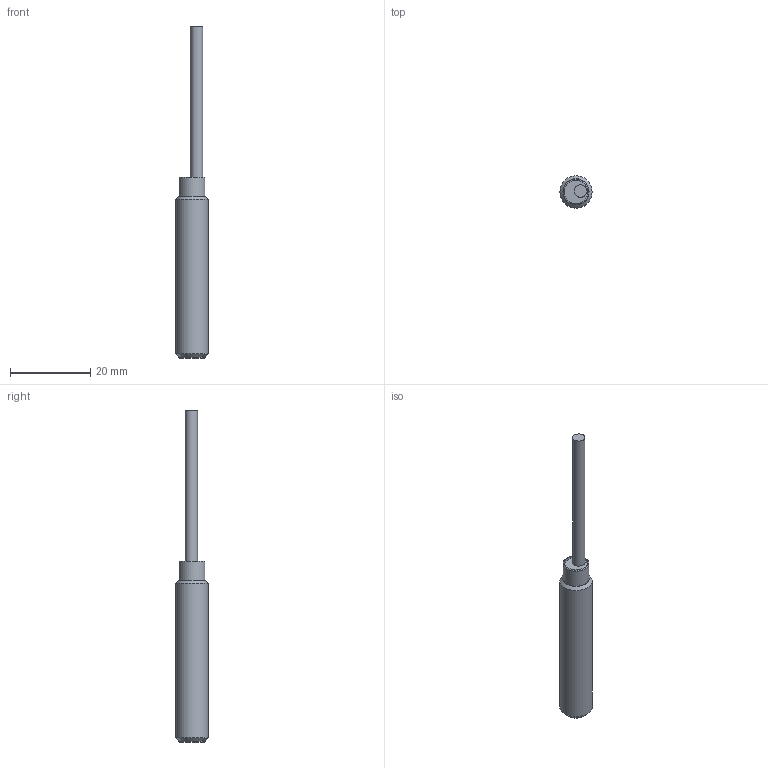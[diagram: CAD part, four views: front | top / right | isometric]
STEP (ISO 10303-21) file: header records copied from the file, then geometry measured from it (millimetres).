
FILE_DESCRIPTION( ( 'Unknown' ), '1' );
FILE_SCHEMA( ( 'AUTOMOTIVE_DESIGN { 1 0 10303 214 1 1 1 1 }' ) );
Length unit declared in the file: millimetre
Products named in the file (5): Assem1
Assembly tree (4 placements, depth 2):
  Assem1
    (unnamed)
    (unnamed)
    (unnamed)
    (unnamed)
Bounding box: 8 x 8 x 82.6 mm (x, y, z)
Volume: 2433.3 mm3; surface area: 1744.5 mm2
Topology: 4 solids, 4 shells, 20 faces, 28 edges, 18 vertices
Faces by surface type: plane 10, cylinder 6, torus 2, cone 2
Full cylindrical faces by diameter (mm): 3.1 x2, 5.8 x1, 6.45 x1, 6.5 x1, 8 x1
Entity records: 449 total; most frequent: DIRECTION 82, CARTESIAN_POINT 57, AXIS2_PLACEMENT_3D 41, EDGE_LOOP 32, ORIENTED_EDGE 32, FACE_OUTER_BOUND 28, ADVANCED_FACE 20, EDGE_CURVE 16
